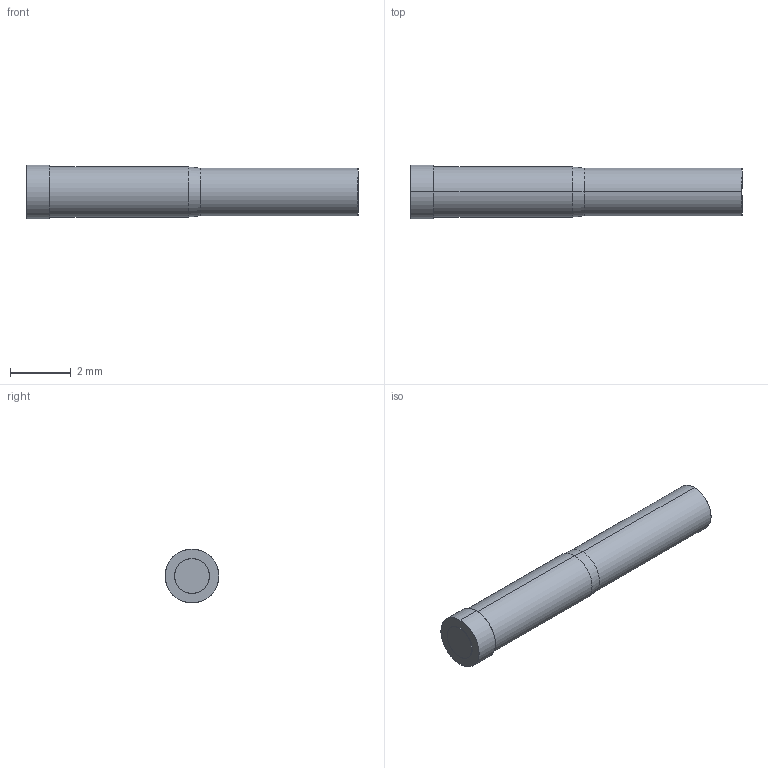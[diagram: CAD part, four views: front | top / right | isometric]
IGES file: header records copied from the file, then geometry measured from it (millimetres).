
Start section: SolidWorks IGES file using analytic representation for surfaces
Global section: file name: O:\PYLON\IGES FILES\E-S\E-S-F FULL.IGS; native system: SolidWorks 2015; preprocessor: SolidWorks 2015; author: kgolden; date: 171024.083325; units: inch
Bounding box: 10.95 x 1.78 x 1.78 mm (x, y, z)
Surface area: 69.9 mm2 (no closed solid volume)
Topology: 0 solids, 0 shells, 17 faces, 208 edges, 208 vertices
Faces by surface type: revolution 12, bspline 5
